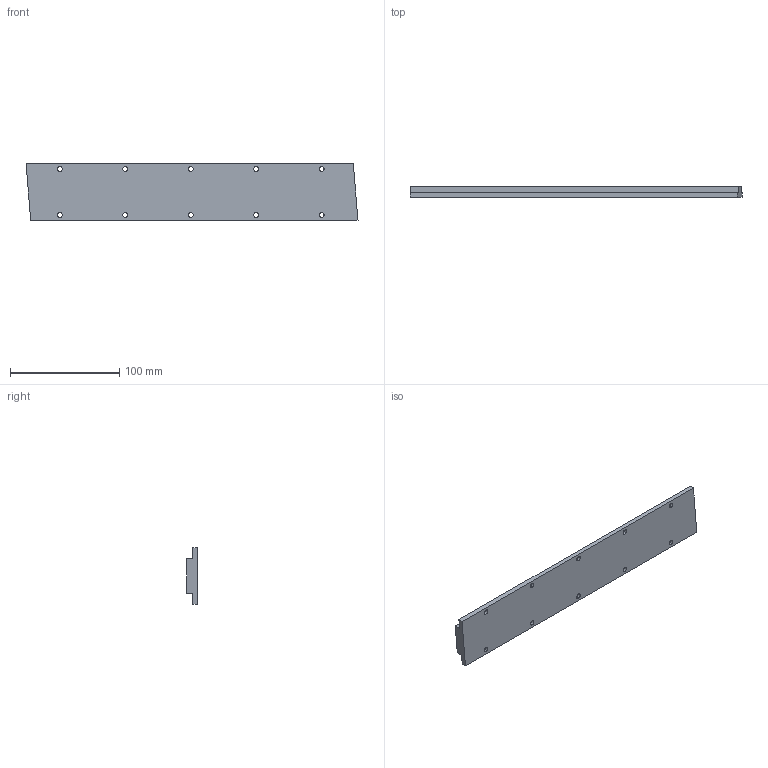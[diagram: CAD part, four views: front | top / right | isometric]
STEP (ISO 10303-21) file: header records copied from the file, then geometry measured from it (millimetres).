
FILE_DESCRIPTION (( 'STEP AP214' ), '1' );
FILE_NAME ('LMSA1S3E.STEP', '2013-07-17T08:17:42', ( ' ' ), ( '' ), 'SwSTEP 2.0', 'SolidWorks 2010', '' );
FILE_SCHEMA (( 'AUTOMOTIVE_DESIGN' ));
Length unit declared in the file: millimetre
Products named in the file (1): LMSA1S3E
Bounding box: 304.36 x 9.7 x 52 mm (x, y, z)
Volume: 116215.3 mm3; surface area: 38236.7 mm2
Topology: 1 solids, 1 shells, 87 faces, 219 edges, 146 vertices
Faces by surface type: cylinder 40, plane 36, bspline 11
Entity records: 3497 total; most frequent: CARTESIAN_POINT 1320, ORIENTED_EDGE 438, DIRECTION 431, EDGE_CURVE 219, AXIS2_PLACEMENT_3D 157, VERTEX_POINT 146, EDGE_LOOP 119, LINE 117
